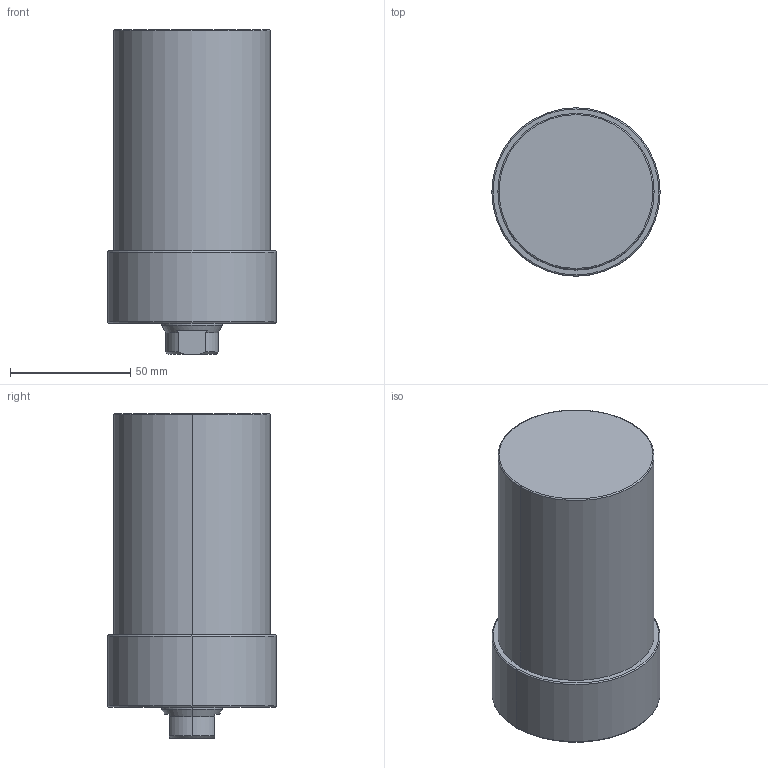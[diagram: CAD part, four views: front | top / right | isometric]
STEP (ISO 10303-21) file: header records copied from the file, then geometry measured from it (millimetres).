
FILE_DESCRIPTION (( 'STEP AP203' ), '1' );
FILE_NAME ('CLLU-065GA-075.STEP', '2020-01-06T08:22:13', ( '' ), ( '' ), 'SwSTEP 2.0', 'SolidWorks 2015', '' );
FILE_SCHEMA (( 'CONFIG_CONTROL_DESIGN' ));
Length unit declared in the file: millimetre
Products named in the file (1): CLLU-065GA-075
Bounding box: 70 x 70 x 135 mm (x, y, z)
Volume: 421275 mm3; surface area: 35950.6 mm2
Topology: 1 solids, 1 shells, 64 faces, 145 edges, 82 vertices
Faces by surface type: cone 25, cylinder 23, plane 10, torus 6
Entity records: 1811 total; most frequent: DIRECTION 332, CARTESIAN_POINT 310, ORIENTED_EDGE 270, AXIS2_PLACEMENT_3D 140, EDGE_CURVE 135, VERTEX_POINT 82, CIRCLE 75, EDGE_LOOP 73
